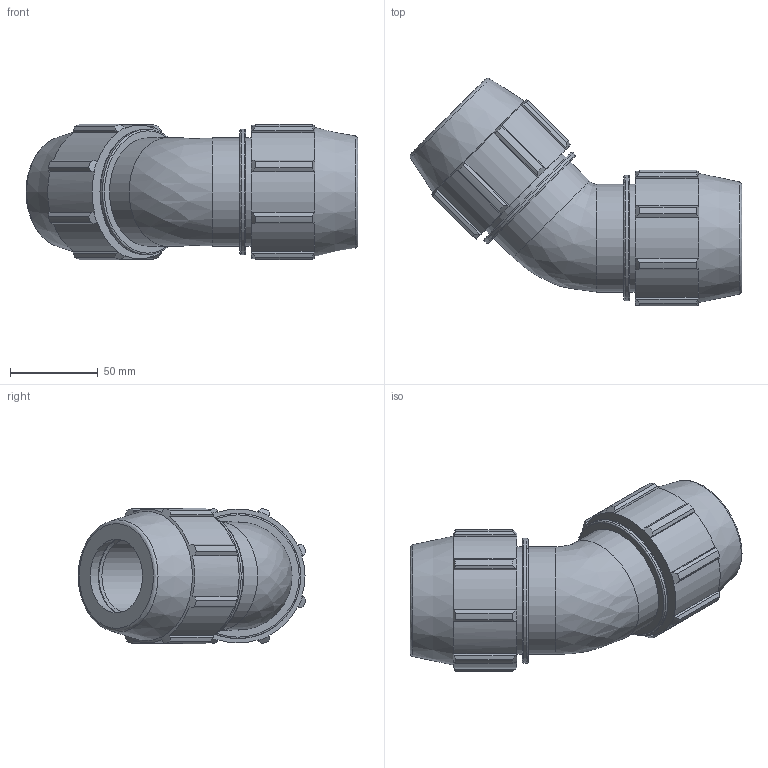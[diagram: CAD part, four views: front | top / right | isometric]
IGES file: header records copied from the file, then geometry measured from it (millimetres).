
Global section: file name: 0706M0013.ipt; native system: Autodesk Inventor 2019; preprocessor: unknown; author: KIM; date: 20210826.124624; units: inch
Bounding box: 189.1 x 129.65 x 77.2 mm (x, y, z)
Volume: 471662.2 mm3; surface area: 82031.6 mm2
Topology: 1 solids, 1 shells, 146 faces, 417 edges, 281 vertices
Faces by surface type: plane 74, cylinder 38, cone 20, revolution 14
Full cylindrical faces by diameter (mm): 61.531 x4, 71.377 x2
